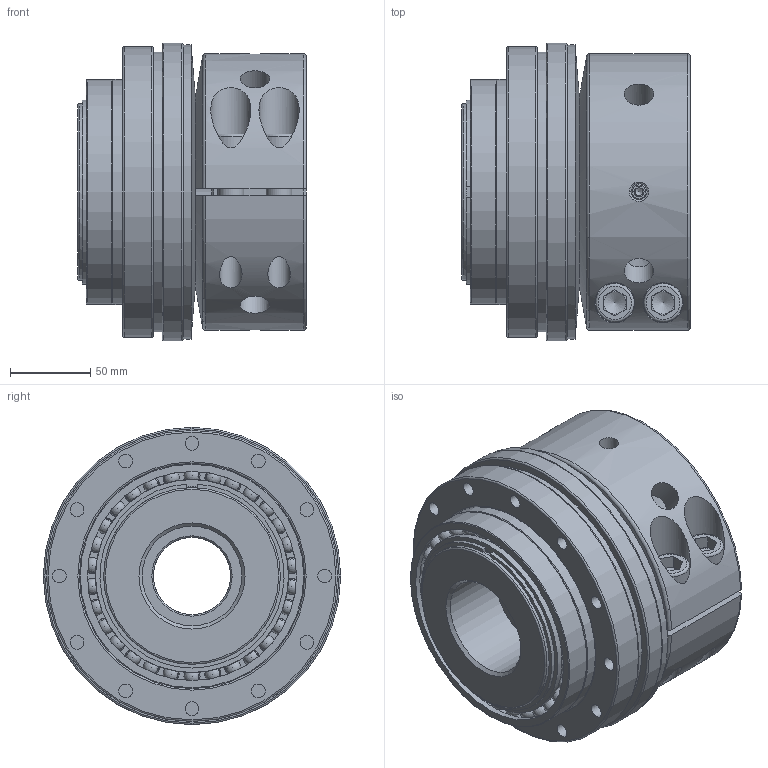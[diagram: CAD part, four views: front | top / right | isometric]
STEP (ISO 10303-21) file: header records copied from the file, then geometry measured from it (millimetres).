
FILE_DESCRIPTION( ( 'Unknown' ), '1' );
FILE_NAME( 'F:/JAKOB-STEP+IGES-Dateien/STEP-Dateien/SKB/SKB 2000.stp', 'Unknown', ( 'Unknown' ), ( 'Unknown' ), 'PSStep 10.1', 'Unknown', ' ' );
FILE_SCHEMA( ( 'AUTOMOTIVE_DESIGN { 1 0 10303 214 1 1 1 1 }' ) );
Length unit declared in the file: millimetre
Products named in the file (1): SKB 2000
Bounding box: 142.33 x 185 x 185 mm (x, y, z)
Volume: 2631069 mm3; surface area: 274655.1 mm2
Topology: 1 solids, 8 shells, 405 faces, 1473 edges, 973 vertices
Faces by surface type: torus 139, plane 100, cylinder 67, sphere 66, cone 33
Full cylindrical faces by diameter (mm): 8.5 x16, 10 x2, 12 x2, 14 x2, 16 x2, 16.5 x2, 18.5 x4, 24 x2, 25 x2, 48 x1, 62 x1, 107.7 x1, 109.8 x1, 110 x3, 120 x3, 130 x3, 140 x3, 174 x1, 181 x1, 185 x1
Entity records: 24264 total; most frequent: CARTESIAN_POINT 10704, ORIENTED_EDGE 2280, DIRECTION 1854, EDGE_CURVE 1140, AXIS2_PLACEMENT_3D 824, VERTEX_POINT 808, EDGE_LOOP 602, B_SPLINE_CURVE_WITH_KNOTS 516
